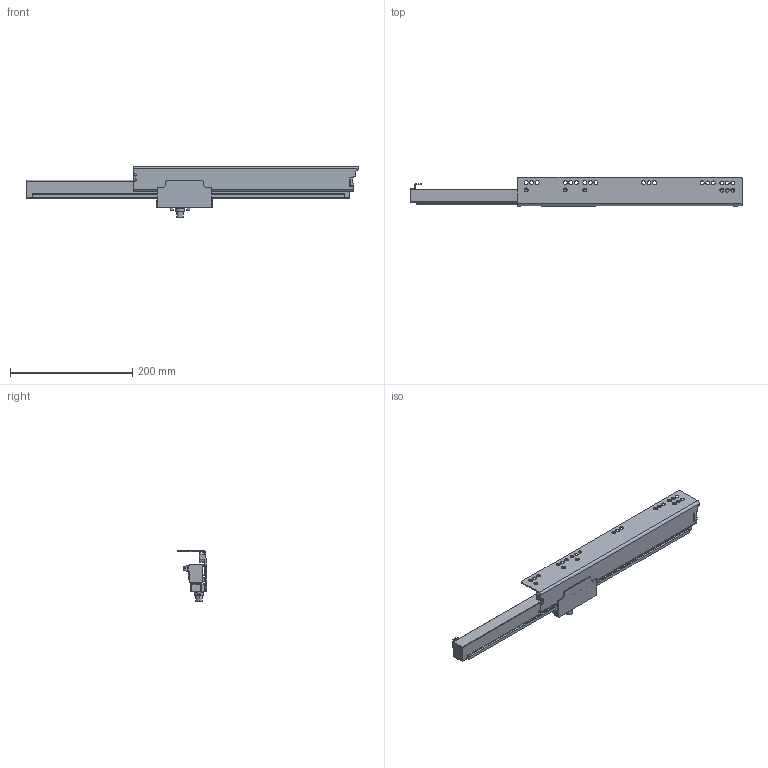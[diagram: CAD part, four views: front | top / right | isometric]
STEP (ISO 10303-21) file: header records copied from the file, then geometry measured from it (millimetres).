
FILE_DESCRIPTION (( 'STEP AP203' ), '1' );
FILE_NAME ('HT405504H-L(敕磁).STEP', '2022-05-24T07:02:29', ( 'Users' ), ( 'Microsoft' ), 'SwSTEP 2.0', 'SolidWorks 2018', '' );
FILE_SCHEMA (( 'CONFIG_CONTROL_DESIGN' ));
Length unit declared in the file: millimetre
Products named in the file (1): HT405504H-L(敕磁)
Bounding box: 543 x 47.5 x 83.3 mm (x, y, z)
Volume: 463534.9 mm3; surface area: 137117.1 mm2
Topology: 2 solids, 3 shells, 422 faces, 1066 edges, 654 vertices
Faces by surface type: cylinder 186, plane 118, torus 64, cone 48, sphere 4, bspline 2
Entity records: 12927 total; most frequent: DIRECTION 2393, CARTESIAN_POINT 2302, ORIENTED_EDGE 2124, EDGE_CURVE 1062, AXIS2_PLACEMENT_3D 933, VERTEX_POINT 654, LINE 527, VECTOR 527
